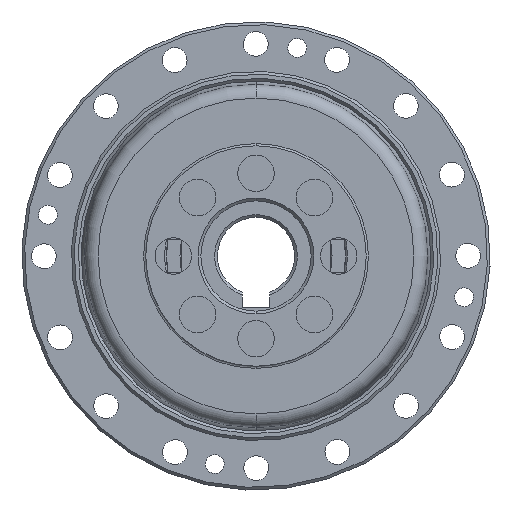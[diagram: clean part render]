
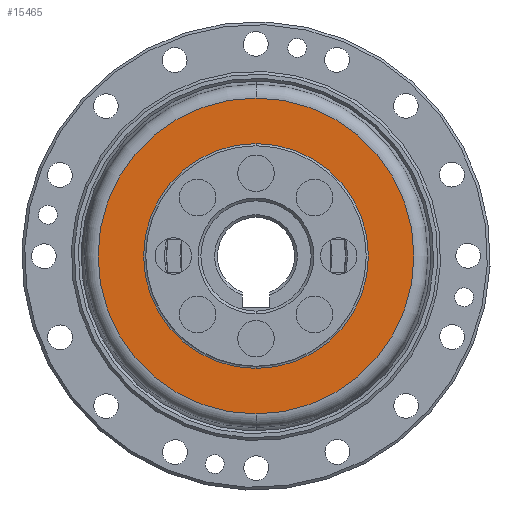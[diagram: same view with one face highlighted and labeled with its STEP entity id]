
A CAD part, left-side view. The second image highlights one B-rep face of the part: STEP entity #15465.
In plain terms, the highlighted planar face has unit normal (-1, 0, 0).
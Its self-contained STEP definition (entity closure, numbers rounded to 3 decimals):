
#987 = FACE_BOUND ( 'NONE', #12311, .T. ) ;
#1375 = AXIS2_PLACEMENT_3D ( 'NONE', #18220, #8698, #19816 ) ;
#1737 = CARTESIAN_POINT ( 'NONE',  ( 20.912, 0., 0. ) ) ;
#2324 = CARTESIAN_POINT ( 'NONE',  ( 20.912, 0., 20.4 ) ) ;
#3331 = DIRECTION ( 'NONE',  ( 0., 0., 1. ) ) ;
#4089 = CARTESIAN_POINT ( 'NONE',  ( 20.912, 0., 0. ) ) ;
#4719 = FACE_OUTER_BOUND ( 'NONE', #8056, .T. ) ;
#4980 = DIRECTION ( 'NONE',  ( 1., 0., 0. ) ) ;
#5694 = DIRECTION ( 'NONE',  ( 0., 0., 1. ) ) ;
#7214 = ORIENTED_EDGE ( 'NONE', *, *, #8599, .F. ) ;
#7231 = CARTESIAN_POINT ( 'NONE',  ( 20.912, 0., -20.4 ) ) ;
#7271 = DIRECTION ( 'NONE',  ( -1., 0., 0. ) ) ;
#8056 = EDGE_LOOP ( 'NONE', ( #12776, #15032 ) ) ;
#8135 = CARTESIAN_POINT ( 'NONE',  ( 20.912, 0., -28.666 ) ) ;
#8599 = EDGE_CURVE ( 'NONE', #10691, #13356, #19452, .T. ) ;
#8698 = DIRECTION ( 'NONE',  ( -1., 0., 0. ) ) ;
#9388 = CIRCLE ( 'NONE', #10475, 28.666 ) ;
#10432 = EDGE_CURVE ( 'NONE', #13356, #10691, #13402, .T. ) ;
#10475 = AXIS2_PLACEMENT_3D ( 'NONE', #4089, #15227, #5694 ) ;
#10691 = VERTEX_POINT ( 'NONE', #7231 ) ;
#12311 = EDGE_LOOP ( 'NONE', ( #15597, #7214 ) ) ;
#12776 = ORIENTED_EDGE ( 'NONE', *, *, #13960, .T. ) ;
#12837 = DIRECTION ( 'NONE',  ( -1., 0., 0. ) ) ;
#13356 = VERTEX_POINT ( 'NONE', #2324 ) ;
#13402 = CIRCLE ( 'NONE', #16687, 20.4 ) ;
#13722 = VERTEX_POINT ( 'NONE', #8135 ) ;
#13960 = EDGE_CURVE ( 'NONE', #19614, #13722, #17722, .T. ) ;
#14311 = AXIS2_PLACEMENT_3D ( 'NONE', #19241, #4980, #16108 ) ;
#15032 = ORIENTED_EDGE ( 'NONE', *, *, #17495, .T. ) ;
#15227 = DIRECTION ( 'NONE',  ( -1., 0., 0. ) ) ;
#15465 = ADVANCED_FACE ( 'NONE', ( #987, #4719 ), #17577, .F. ) ;
#15597 = ORIENTED_EDGE ( 'NONE', *, *, #10432, .F. ) ;
#16108 = DIRECTION ( 'NONE',  ( 0., 0., -1. ) ) ;
#16687 = AXIS2_PLACEMENT_3D ( 'NONE', #1737, #12837, #3331 ) ;
#16799 = CARTESIAN_POINT ( 'NONE',  ( 20.912, 0., 0. ) ) ;
#17495 = EDGE_CURVE ( 'NONE', #13722, #19614, #9388, .T. ) ;
#17577 = PLANE ( 'NONE',  #14311 ) ;
#17722 = CIRCLE ( 'NONE', #1375, 28.666 ) ;
#18220 = CARTESIAN_POINT ( 'NONE',  ( 20.912, 0., 0. ) ) ;
#18372 = AXIS2_PLACEMENT_3D ( 'NONE', #16799, #7271, #18392 ) ;
#18392 = DIRECTION ( 'NONE',  ( 0., 0., 1. ) ) ;
#18536 = CARTESIAN_POINT ( 'NONE',  ( 20.912, 0., 28.666 ) ) ;
#19241 = CARTESIAN_POINT ( 'NONE',  ( 20.912, 20.4, 0. ) ) ;
#19452 = CIRCLE ( 'NONE', #18372, 20.4 ) ;
#19614 = VERTEX_POINT ( 'NONE', #18536 ) ;
#19816 = DIRECTION ( 'NONE',  ( 0., 0., 1. ) ) ;
